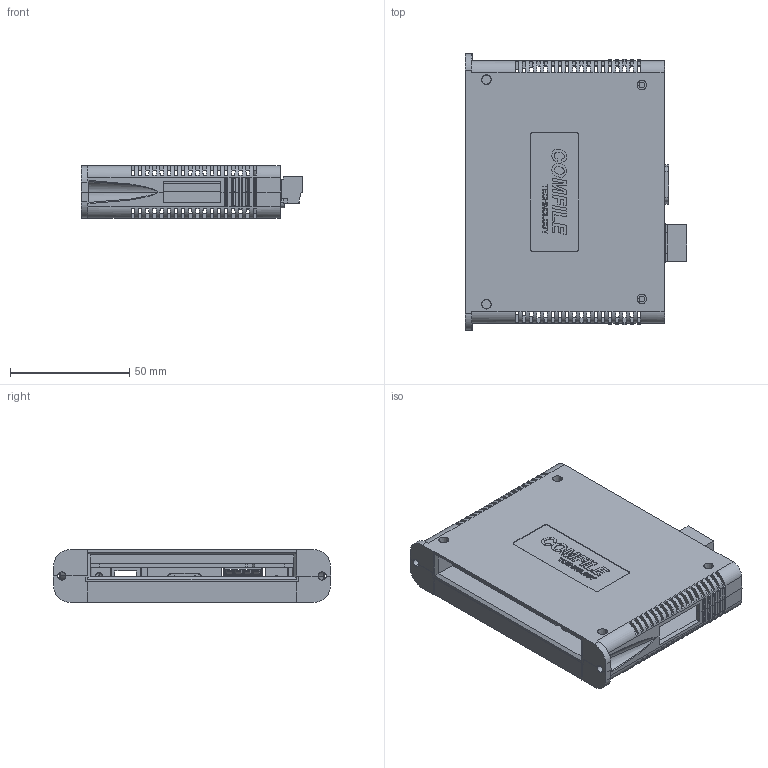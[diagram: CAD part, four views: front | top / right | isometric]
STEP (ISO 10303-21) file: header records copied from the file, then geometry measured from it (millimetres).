
FILE_DESCRIPTION (( 'STEP AP214' ), '1' );
FILE_NAME ('DP-CPU500_ASM.STEP', '2016-05-30T02:46:47', ( 'Registered User' ), ( 'Microsoft Corporation' ), 'SwSTEP 2.0', 'SolidWorks 2014', '' );
FILE_SCHEMA (( 'AUTOMOTIVE_DESIGN' ));
Length unit declared in the file: millimetre
Products named in the file (1): DP-CPU500_ASM
Bounding box: 92.9 x 116 x 22 mm (x, y, z)
Surface area: 61373.8 mm2 (no closed solid volume)
Topology: 0 solids, 25 shells, 1051 faces, 3715 edges, 2524 vertices
Faces by surface type: plane 818, cylinder 196, cone 16, torus 10, bspline 9, sphere 2
Entity records: 50837 total; most frequent: CARTESIAN_POINT 9410, ORIENTED_EDGE 5963, DIRECTION 5678, EDGE_CURVE 3713, LINE 2880, VECTOR 2880, VERTEX_POINT 2523, AXIS2_PLACEMENT_3D 1399
